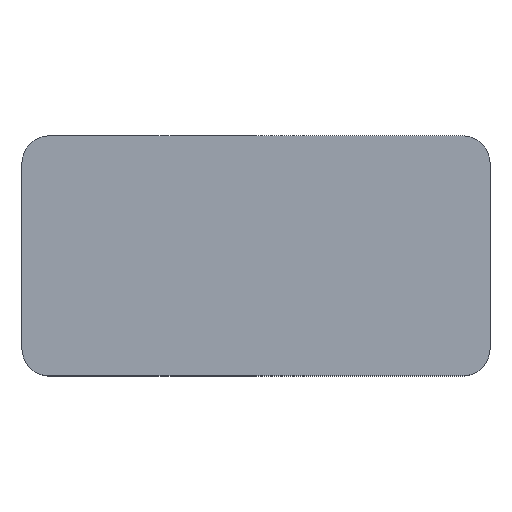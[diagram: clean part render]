
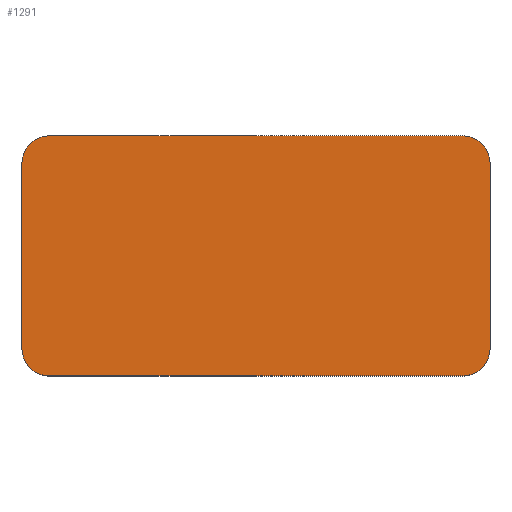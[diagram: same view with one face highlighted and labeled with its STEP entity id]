
A CAD part, top view. The second image highlights one B-rep face of the part: STEP entity #1291.
In plain terms, the highlighted planar face has unit normal (0, 0, 1).
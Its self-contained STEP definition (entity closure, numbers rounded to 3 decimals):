
#231 = PLANE('',#232);
#232 = AXIS2_PLACEMENT_3D('',#233,#234,#235);
#233 = CARTESIAN_POINT('',(-3.9,-2.,12.4));
#234 = DIRECTION('',(1.,0.,0.));
#235 = DIRECTION('',(0.,0.,1.));
#260 = CYLINDRICAL_SURFACE('',#261,0.45);
#261 = AXIS2_PLACEMENT_3D('',#262,#263,#264);
#262 = CARTESIAN_POINT('',(-3.45,-1.55,12.4));
#263 = DIRECTION('',(0.,0.,1.));
#264 = DIRECTION('',(-1.,-0.,0.));
#288 = PLANE('',#289);
#289 = AXIS2_PLACEMENT_3D('',#290,#291,#292);
#290 = CARTESIAN_POINT('',(-3.9,-2.,12.4));
#291 = DIRECTION('',(0.,1.,0.));
#292 = DIRECTION('',(0.,0.,1.));
#321 = CYLINDRICAL_SURFACE('',#322,0.45);
#322 = AXIS2_PLACEMENT_3D('',#323,#324,#325);
#323 = CARTESIAN_POINT('',(3.45,-1.55,12.4));
#324 = DIRECTION('',(0.,0.,1.));
#325 = DIRECTION('',(1.,0.,-0.));
#349 = PLANE('',#350);
#350 = AXIS2_PLACEMENT_3D('',#351,#352,#353);
#351 = CARTESIAN_POINT('',(3.9,-2.,12.4));
#352 = DIRECTION('',(1.,0.,0.));
#353 = DIRECTION('',(0.,0.,1.));
#378 = CYLINDRICAL_SURFACE('',#379,0.45);
#379 = AXIS2_PLACEMENT_3D('',#380,#381,#382);
#380 = CARTESIAN_POINT('',(3.45,1.55,12.4));
#381 = DIRECTION('',(0.,0.,1.));
#382 = DIRECTION('',(1.,0.,-0.));
#406 = PLANE('',#407);
#407 = AXIS2_PLACEMENT_3D('',#408,#409,#410);
#408 = CARTESIAN_POINT('',(-3.9,2.,12.4));
#409 = DIRECTION('',(0.,1.,0.));
#410 = DIRECTION('',(0.,0.,1.));
#437 = CYLINDRICAL_SURFACE('',#438,0.45);
#438 = AXIS2_PLACEMENT_3D('',#439,#440,#441);
#439 = CARTESIAN_POINT('',(-3.45,1.55,12.4));
#440 = DIRECTION('',(0.,0.,1.));
#441 = DIRECTION('',(-1.,-0.,0.));
#685 = EDGE_CURVE('',#686,#688,#690,.T.);
#686 = VERTEX_POINT('',#687);
#687 = CARTESIAN_POINT('',(-3.9,-1.55,14.4));
#688 = VERTEX_POINT('',#689);
#689 = CARTESIAN_POINT('',(-3.9,1.55,14.4));
#690 = SURFACE_CURVE('',#691,(#695,#702),.PCURVE_S1.);
#691 = LINE('',#692,#693);
#692 = CARTESIAN_POINT('',(-3.9,-2.,14.4));
#693 = VECTOR('',#694,1.);
#694 = DIRECTION('',(0.,1.,0.));
#695 = PCURVE('',#231,#696);
#696 = DEFINITIONAL_REPRESENTATION('',(#697),#701);
#697 = LINE('',#698,#699);
#698 = CARTESIAN_POINT('',(2.,0.));
#699 = VECTOR('',#700,1.);
#700 = DIRECTION('',(0.,-1.));
#701 = ( GEOMETRIC_REPRESENTATION_CONTEXT(2) 
PARAMETRIC_REPRESENTATION_CONTEXT() REPRESENTATION_CONTEXT('2D SPACE',''
  ) );
#702 = PCURVE('',#703,#708);
#703 = PLANE('',#704);
#704 = AXIS2_PLACEMENT_3D('',#705,#706,#707);
#705 = CARTESIAN_POINT('',(-3.9,-2.,14.4));
#706 = DIRECTION('',(0.,0.,1.));
#707 = DIRECTION('',(1.,0.,0.));
#708 = DEFINITIONAL_REPRESENTATION('',(#709),#713);
#709 = LINE('',#710,#711);
#710 = CARTESIAN_POINT('',(0.,0.));
#711 = VECTOR('',#712,1.);
#712 = DIRECTION('',(0.,1.));
#713 = ( GEOMETRIC_REPRESENTATION_CONTEXT(2) 
PARAMETRIC_REPRESENTATION_CONTEXT() REPRESENTATION_CONTEXT('2D SPACE',''
  ) );
#763 = VERTEX_POINT('',#764);
#764 = CARTESIAN_POINT('',(-3.45,-2.,14.4));
#785 = EDGE_CURVE('',#686,#763,#786,.T.);
#786 = SURFACE_CURVE('',#787,(#792,#799),.PCURVE_S1.);
#787 = CIRCLE('',#788,0.45);
#788 = AXIS2_PLACEMENT_3D('',#789,#790,#791);
#789 = CARTESIAN_POINT('',(-3.45,-1.55,14.4));
#790 = DIRECTION('',(0.,0.,1.));
#791 = DIRECTION('',(0.,-1.,0.));
#792 = PCURVE('',#260,#793);
#793 = DEFINITIONAL_REPRESENTATION('',(#794),#798);
#794 = LINE('',#795,#796);
#795 = CARTESIAN_POINT('',(-4.712,2.));
#796 = VECTOR('',#797,1.);
#797 = DIRECTION('',(1.,0.));
#798 = ( GEOMETRIC_REPRESENTATION_CONTEXT(2) 
PARAMETRIC_REPRESENTATION_CONTEXT() REPRESENTATION_CONTEXT('2D SPACE',''
  ) );
#799 = PCURVE('',#703,#800);
#800 = DEFINITIONAL_REPRESENTATION('',(#801),#805);
#801 = CIRCLE('',#802,0.45);
#802 = AXIS2_PLACEMENT_2D('',#803,#804);
#803 = CARTESIAN_POINT('',(0.45,0.45));
#804 = DIRECTION('',(0.,-1.));
#805 = ( GEOMETRIC_REPRESENTATION_CONTEXT(2) 
PARAMETRIC_REPRESENTATION_CONTEXT() REPRESENTATION_CONTEXT('2D SPACE',''
  ) );
#813 = VERTEX_POINT('',#814);
#814 = CARTESIAN_POINT('',(-3.45,2.,14.4));
#835 = EDGE_CURVE('',#688,#813,#836,.T.);
#836 = SURFACE_CURVE('',#837,(#842,#849),.PCURVE_S1.);
#837 = CIRCLE('',#838,0.45);
#838 = AXIS2_PLACEMENT_3D('',#839,#840,#841);
#839 = CARTESIAN_POINT('',(-3.45,1.55,14.4));
#840 = DIRECTION('',(-0.,-0.,-1.));
#841 = DIRECTION('',(0.,-1.,0.));
#842 = PCURVE('',#437,#843);
#843 = DEFINITIONAL_REPRESENTATION('',(#844),#848);
#844 = LINE('',#845,#846);
#845 = CARTESIAN_POINT('',(1.571,2.));
#846 = VECTOR('',#847,1.);
#847 = DIRECTION('',(-1.,0.));
#848 = ( GEOMETRIC_REPRESENTATION_CONTEXT(2) 
PARAMETRIC_REPRESENTATION_CONTEXT() REPRESENTATION_CONTEXT('2D SPACE',''
  ) );
#849 = PCURVE('',#703,#850);
#850 = DEFINITIONAL_REPRESENTATION('',(#851),#859);
#851 = ( BOUNDED_CURVE() B_SPLINE_CURVE(2,(#852,#853,#854,#855,#856,#857
,#858),.UNSPECIFIED.,.T.,.F.) B_SPLINE_CURVE_WITH_KNOTS((1,2,2,2,2,1),(
    -2.094,0.,2.094,4.189,6.283,
8.378),.UNSPECIFIED.) CURVE() GEOMETRIC_REPRESENTATION_ITEM() 
RATIONAL_B_SPLINE_CURVE((1.,0.5,1.,0.5,1.,0.5,1.)) REPRESENTATION_ITEM(
  '') );
#852 = CARTESIAN_POINT('',(0.45,3.1));
#853 = CARTESIAN_POINT('',(-0.329,3.1));
#854 = CARTESIAN_POINT('',(0.06,3.775));
#855 = CARTESIAN_POINT('',(0.45,4.45));
#856 = CARTESIAN_POINT('',(0.84,3.775));
#857 = CARTESIAN_POINT('',(1.229,3.1));
#858 = CARTESIAN_POINT('',(0.45,3.1));
#859 = ( GEOMETRIC_REPRESENTATION_CONTEXT(2) 
PARAMETRIC_REPRESENTATION_CONTEXT() REPRESENTATION_CONTEXT('2D SPACE',''
  ) );
#867 = EDGE_CURVE('',#763,#868,#870,.T.);
#868 = VERTEX_POINT('',#869);
#869 = CARTESIAN_POINT('',(3.45,-2.,14.4));
#870 = SURFACE_CURVE('',#871,(#875,#882),.PCURVE_S1.);
#871 = LINE('',#872,#873);
#872 = CARTESIAN_POINT('',(-3.9,-2.,14.4));
#873 = VECTOR('',#874,1.);
#874 = DIRECTION('',(1.,0.,0.));
#875 = PCURVE('',#288,#876);
#876 = DEFINITIONAL_REPRESENTATION('',(#877),#881);
#877 = LINE('',#878,#879);
#878 = CARTESIAN_POINT('',(2.,0.));
#879 = VECTOR('',#880,1.);
#880 = DIRECTION('',(0.,1.));
#881 = ( GEOMETRIC_REPRESENTATION_CONTEXT(2) 
PARAMETRIC_REPRESENTATION_CONTEXT() REPRESENTATION_CONTEXT('2D SPACE',''
  ) );
#882 = PCURVE('',#703,#883);
#883 = DEFINITIONAL_REPRESENTATION('',(#884),#888);
#884 = LINE('',#885,#886);
#885 = CARTESIAN_POINT('',(0.,0.));
#886 = VECTOR('',#887,1.);
#887 = DIRECTION('',(1.,0.));
#888 = ( GEOMETRIC_REPRESENTATION_CONTEXT(2) 
PARAMETRIC_REPRESENTATION_CONTEXT() REPRESENTATION_CONTEXT('2D SPACE',''
  ) );
#916 = EDGE_CURVE('',#813,#917,#919,.T.);
#917 = VERTEX_POINT('',#918);
#918 = CARTESIAN_POINT('',(3.45,2.,14.4));
#919 = SURFACE_CURVE('',#920,(#924,#931),.PCURVE_S1.);
#920 = LINE('',#921,#922);
#921 = CARTESIAN_POINT('',(-3.9,2.,14.4));
#922 = VECTOR('',#923,1.);
#923 = DIRECTION('',(1.,0.,0.));
#924 = PCURVE('',#406,#925);
#925 = DEFINITIONAL_REPRESENTATION('',(#926),#930);
#926 = LINE('',#927,#928);
#927 = CARTESIAN_POINT('',(2.,0.));
#928 = VECTOR('',#929,1.);
#929 = DIRECTION('',(0.,1.));
#930 = ( GEOMETRIC_REPRESENTATION_CONTEXT(2) 
PARAMETRIC_REPRESENTATION_CONTEXT() REPRESENTATION_CONTEXT('2D SPACE',''
  ) );
#931 = PCURVE('',#703,#932);
#932 = DEFINITIONAL_REPRESENTATION('',(#933),#937);
#933 = LINE('',#934,#935);
#934 = CARTESIAN_POINT('',(0.,4.));
#935 = VECTOR('',#936,1.);
#936 = DIRECTION('',(1.,0.));
#937 = ( GEOMETRIC_REPRESENTATION_CONTEXT(2) 
PARAMETRIC_REPRESENTATION_CONTEXT() REPRESENTATION_CONTEXT('2D SPACE',''
  ) );
#965 = EDGE_CURVE('',#966,#868,#968,.T.);
#966 = VERTEX_POINT('',#967);
#967 = CARTESIAN_POINT('',(3.9,-1.55,14.4));
#968 = SURFACE_CURVE('',#969,(#974,#981),.PCURVE_S1.);
#969 = CIRCLE('',#970,0.45);
#970 = AXIS2_PLACEMENT_3D('',#971,#972,#973);
#971 = CARTESIAN_POINT('',(3.45,-1.55,14.4));
#972 = DIRECTION('',(-0.,-0.,-1.));
#973 = DIRECTION('',(0.,-1.,0.));
#974 = PCURVE('',#321,#975);
#975 = DEFINITIONAL_REPRESENTATION('',(#976),#980);
#976 = LINE('',#977,#978);
#977 = CARTESIAN_POINT('',(4.712,2.));
#978 = VECTOR('',#979,1.);
#979 = DIRECTION('',(-1.,0.));
#980 = ( GEOMETRIC_REPRESENTATION_CONTEXT(2) 
PARAMETRIC_REPRESENTATION_CONTEXT() REPRESENTATION_CONTEXT('2D SPACE',''
  ) );
#981 = PCURVE('',#703,#982);
#982 = DEFINITIONAL_REPRESENTATION('',(#983),#991);
#983 = ( BOUNDED_CURVE() B_SPLINE_CURVE(2,(#984,#985,#986,#987,#988,#989
,#990),.UNSPECIFIED.,.T.,.F.) B_SPLINE_CURVE_WITH_KNOTS((1,2,2,2,2,1),(
    -2.094,0.,2.094,4.189,6.283,
8.378),.UNSPECIFIED.) CURVE() GEOMETRIC_REPRESENTATION_ITEM() 
RATIONAL_B_SPLINE_CURVE((1.,0.5,1.,0.5,1.,0.5,1.)) REPRESENTATION_ITEM(
  '') );
#984 = CARTESIAN_POINT('',(7.35,0.));
#985 = CARTESIAN_POINT('',(6.571,0.));
#986 = CARTESIAN_POINT('',(6.96,0.675));
#987 = CARTESIAN_POINT('',(7.35,1.35));
#988 = CARTESIAN_POINT('',(7.74,0.675));
#989 = CARTESIAN_POINT('',(8.129,0.));
#990 = CARTESIAN_POINT('',(7.35,0.));
#991 = ( GEOMETRIC_REPRESENTATION_CONTEXT(2) 
PARAMETRIC_REPRESENTATION_CONTEXT() REPRESENTATION_CONTEXT('2D SPACE',''
  ) );
#1019 = EDGE_CURVE('',#1020,#917,#1022,.T.);
#1020 = VERTEX_POINT('',#1021);
#1021 = CARTESIAN_POINT('',(3.9,1.55,14.4));
#1022 = SURFACE_CURVE('',#1023,(#1028,#1035),.PCURVE_S1.);
#1023 = CIRCLE('',#1024,0.45);
#1024 = AXIS2_PLACEMENT_3D('',#1025,#1026,#1027);
#1025 = CARTESIAN_POINT('',(3.45,1.55,14.4));
#1026 = DIRECTION('',(0.,0.,1.));
#1027 = DIRECTION('',(0.,-1.,0.));
#1028 = PCURVE('',#378,#1029);
#1029 = DEFINITIONAL_REPRESENTATION('',(#1030),#1034);
#1030 = LINE('',#1031,#1032);
#1031 = CARTESIAN_POINT('',(-1.571,2.));
#1032 = VECTOR('',#1033,1.);
#1033 = DIRECTION('',(1.,0.));
#1034 = ( GEOMETRIC_REPRESENTATION_CONTEXT(2) 
PARAMETRIC_REPRESENTATION_CONTEXT() REPRESENTATION_CONTEXT('2D SPACE',''
  ) );
#1035 = PCURVE('',#703,#1036);
#1036 = DEFINITIONAL_REPRESENTATION('',(#1037),#1041);
#1037 = CIRCLE('',#1038,0.45);
#1038 = AXIS2_PLACEMENT_2D('',#1039,#1040);
#1039 = CARTESIAN_POINT('',(7.35,3.55));
#1040 = DIRECTION('',(0.,-1.));
#1041 = ( GEOMETRIC_REPRESENTATION_CONTEXT(2) 
PARAMETRIC_REPRESENTATION_CONTEXT() REPRESENTATION_CONTEXT('2D SPACE',''
  ) );
#1067 = EDGE_CURVE('',#966,#1020,#1068,.T.);
#1068 = SURFACE_CURVE('',#1069,(#1073,#1080),.PCURVE_S1.);
#1069 = LINE('',#1070,#1071);
#1070 = CARTESIAN_POINT('',(3.9,-2.,14.4));
#1071 = VECTOR('',#1072,1.);
#1072 = DIRECTION('',(0.,1.,0.));
#1073 = PCURVE('',#349,#1074);
#1074 = DEFINITIONAL_REPRESENTATION('',(#1075),#1079);
#1075 = LINE('',#1076,#1077);
#1076 = CARTESIAN_POINT('',(2.,0.));
#1077 = VECTOR('',#1078,1.);
#1078 = DIRECTION('',(0.,-1.));
#1079 = ( GEOMETRIC_REPRESENTATION_CONTEXT(2) 
PARAMETRIC_REPRESENTATION_CONTEXT() REPRESENTATION_CONTEXT('2D SPACE',''
  ) );
#1080 = PCURVE('',#703,#1081);
#1081 = DEFINITIONAL_REPRESENTATION('',(#1082),#1086);
#1082 = LINE('',#1083,#1084);
#1083 = CARTESIAN_POINT('',(7.8,0.));
#1084 = VECTOR('',#1085,1.);
#1085 = DIRECTION('',(0.,1.));
#1086 = ( GEOMETRIC_REPRESENTATION_CONTEXT(2) 
PARAMETRIC_REPRESENTATION_CONTEXT() REPRESENTATION_CONTEXT('2D SPACE',''
  ) );
#1291 = ADVANCED_FACE('',(#1292),#703,.T.);
#1292 = FACE_BOUND('',#1293,.T.);
#1293 = EDGE_LOOP('',(#1294,#1295,#1296,#1297,#1298,#1299,#1300,#1301));
#1294 = ORIENTED_EDGE('',*,*,#685,.F.);
#1295 = ORIENTED_EDGE('',*,*,#785,.T.);
#1296 = ORIENTED_EDGE('',*,*,#867,.T.);
#1297 = ORIENTED_EDGE('',*,*,#965,.F.);
#1298 = ORIENTED_EDGE('',*,*,#1067,.T.);
#1299 = ORIENTED_EDGE('',*,*,#1019,.T.);
#1300 = ORIENTED_EDGE('',*,*,#916,.F.);
#1301 = ORIENTED_EDGE('',*,*,#835,.F.);
